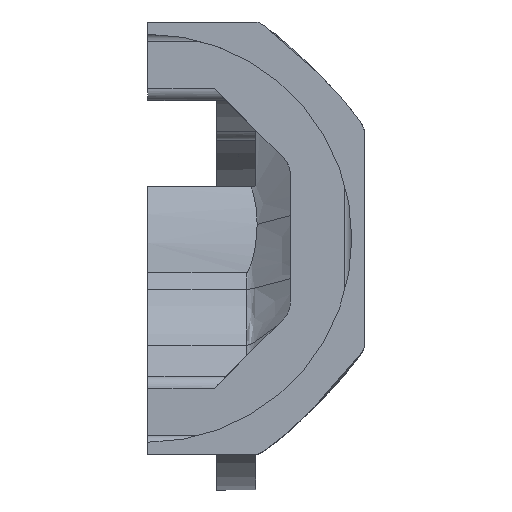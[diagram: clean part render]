
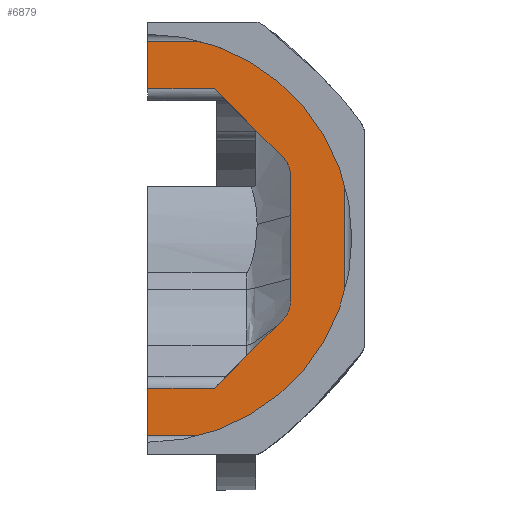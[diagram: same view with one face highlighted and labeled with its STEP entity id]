
A CAD part, top view. The second image highlights one B-rep face of the part: STEP entity #6879.
In plain terms, the highlighted planar face has unit normal (0, 0, 1).
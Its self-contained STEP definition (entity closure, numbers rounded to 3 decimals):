
#362=DIRECTION('',(0.,-1.,0.));
#363=VECTOR('',#362,9.5);
#364=CARTESIAN_POINT('',(213.,45.,182.25));
#365=LINE('',#364,#363);
#1089=CARTESIAN_POINT('',(232.787,45.,182.25));
#1090=CARTESIAN_POINT('',(232.819,44.986,182.25));
#1091=CARTESIAN_POINT('',(232.885,44.953,182.25));
#1092=CARTESIAN_POINT('',(233.017,44.884,182.25));
#1093=CARTESIAN_POINT('',(233.183,44.789,182.25));
#1094=CARTESIAN_POINT('',(233.443,44.631,182.25));
#1095=CARTESIAN_POINT('',(233.762,44.422,182.25));
#1096=CARTESIAN_POINT('',(234.263,44.074,182.25));
#1097=CARTESIAN_POINT('',(234.875,43.621,182.25));
#1098=CARTESIAN_POINT('',(235.595,43.059,182.25));
#1099=CARTESIAN_POINT('',(236.305,42.483,182.25));
#1100=CARTESIAN_POINT('',(237.24,41.701,182.25));
#1101=CARTESIAN_POINT('',(238.388,40.702,182.25));
#1102=CARTESIAN_POINT('',(239.742,39.478,182.25));
#1103=CARTESIAN_POINT('',(241.52,37.819,182.25));
#1104=CARTESIAN_POINT('',(243.697,35.697,182.25));
#1105=CARTESIAN_POINT('',(245.819,33.52,182.25));
#1106=CARTESIAN_POINT('',(247.48,31.74,182.25));
#1107=CARTESIAN_POINT('',(248.705,30.384,182.25));
#1108=CARTESIAN_POINT('',(249.704,29.236,182.25));
#1109=CARTESIAN_POINT('',(250.484,28.304,182.25));
#1110=CARTESIAN_POINT('',(251.059,27.596,182.25));
#1111=CARTESIAN_POINT('',(251.62,26.877,182.25));
#1112=CARTESIAN_POINT('',(252.072,26.266,182.25));
#1113=CARTESIAN_POINT('',(252.419,25.766,182.25));
#1114=CARTESIAN_POINT('',(252.628,25.446,182.25));
#1115=CARTESIAN_POINT('',(252.788,25.185,182.25));
#1116=CARTESIAN_POINT('',(252.883,25.018,182.25));
#1117=CARTESIAN_POINT('',(252.953,24.885,182.25));
#1118=CARTESIAN_POINT('',(252.985,24.819,182.25));
#1119=CARTESIAN_POINT('',(253.,24.787,182.25));
#1121=CARTESIAN_POINT('',(253.,-14.787,182.25));
#1122=CARTESIAN_POINT('',(252.985,-14.819,182.25));
#1123=CARTESIAN_POINT('',(252.953,-14.885,182.25));
#1124=CARTESIAN_POINT('',(252.884,-15.017,182.25));
#1125=CARTESIAN_POINT('',(252.789,-15.182,182.25));
#1126=CARTESIAN_POINT('',(252.631,-15.443,182.25));
#1127=CARTESIAN_POINT('',(252.422,-15.762,182.25));
#1128=CARTESIAN_POINT('',(252.074,-16.263,182.25));
#1129=CARTESIAN_POINT('',(251.621,-16.875,182.25));
#1130=CARTESIAN_POINT('',(251.059,-17.595,182.25));
#1131=CARTESIAN_POINT('',(250.483,-18.305,182.25));
#1132=CARTESIAN_POINT('',(249.701,-19.239,182.25));
#1133=CARTESIAN_POINT('',(248.702,-20.388,182.25));
#1134=CARTESIAN_POINT('',(247.478,-21.742,182.25));
#1135=CARTESIAN_POINT('',(245.818,-23.52,182.25));
#1136=CARTESIAN_POINT('',(243.697,-25.697,182.25));
#1137=CARTESIAN_POINT('',(241.519,-27.819,182.25));
#1138=CARTESIAN_POINT('',(239.74,-29.48,182.25));
#1139=CARTESIAN_POINT('',(238.384,-30.705,182.25));
#1140=CARTESIAN_POINT('',(237.236,-31.703,182.25));
#1141=CARTESIAN_POINT('',(236.304,-32.484,182.25));
#1142=CARTESIAN_POINT('',(235.596,-33.059,182.25));
#1143=CARTESIAN_POINT('',(234.877,-33.62,182.25));
#1144=CARTESIAN_POINT('',(234.266,-34.072,182.25));
#1145=CARTESIAN_POINT('',(233.765,-34.419,182.25));
#1146=CARTESIAN_POINT('',(233.446,-34.628,182.25));
#1147=CARTESIAN_POINT('',(233.185,-34.788,182.25));
#1148=CARTESIAN_POINT('',(233.017,-34.883,182.25));
#1149=CARTESIAN_POINT('',(232.884,-34.953,182.25));
#1150=CARTESIAN_POINT('',(232.819,-34.985,182.25));
#1151=CARTESIAN_POINT('',(232.787,-35.,182.25));
#1153=DIRECTION('',(0.,1.,0.));
#1154=VECTOR('',#1153,9.5);
#1155=CARTESIAN_POINT('',(213.,-35.,182.25));
#1156=LINE('',#1155,#1154);
#1157=DIRECTION('',(0.707,0.707,0.));
#1158=VECTOR('',#1157,19.849);
#1159=CARTESIAN_POINT('',(226.5,-25.5,182.25));
#1160=LINE('',#1159,#1158);
#1161=CARTESIAN_POINT('',(237.,-7.929,182.25));
#1162=DIRECTION('',(0.,0.,1.));
#1163=DIRECTION('',(0.707,-0.707,0.));
#1164=AXIS2_PLACEMENT_3D('',#1161,#1162,#1163);
#1166=DIRECTION('',(0.,1.,0.));
#1167=VECTOR('',#1166,25.858);
#1168=CARTESIAN_POINT('',(242.,-7.929,182.25));
#1169=LINE('',#1168,#1167);
#1170=CARTESIAN_POINT('',(237.,17.929,182.25));
#1171=DIRECTION('',(0.,0.,1.));
#1172=DIRECTION('',(1.,0.,0.));
#1173=AXIS2_PLACEMENT_3D('',#1170,#1171,#1172);
#1175=DIRECTION('',(-0.707,0.707,0.));
#1176=VECTOR('',#1175,19.849);
#1177=CARTESIAN_POINT('',(240.536,21.465,182.25));
#1178=LINE('',#1177,#1176);
#1220=CARTESIAN_POINT('',(253.,24.787,182.25));
#2708=DIRECTION('',(-1.,0.,0.));
#2709=VECTOR('',#2708,13.5);
#2710=CARTESIAN_POINT('',(226.5,-25.5,182.25));
#2711=LINE('',#2710,#2709);
#3074=DIRECTION('',(1.,0.,0.));
#3075=VECTOR('',#3074,19.787);
#3076=CARTESIAN_POINT('',(213.,-35.,182.25));
#3077=LINE('',#3076,#3075);
#3091=CARTESIAN_POINT('',(232.787,-35.,182.25));
#3154=CARTESIAN_POINT('',(253.,-14.787,182.25));
#3174=DIRECTION('',(0.,1.,0.));
#3175=VECTOR('',#3174,39.574);
#3176=CARTESIAN_POINT('',(253.,-14.787,182.25));
#3177=LINE('',#3176,#3175);
#3233=CARTESIAN_POINT('',(232.787,45.,182.25));
#3235=DIRECTION('',(-1.,0.,0.));
#3236=VECTOR('',#3235,19.787);
#3237=CARTESIAN_POINT('',(232.787,45.,182.25));
#3238=LINE('',#3237,#3236);
#3251=DIRECTION('',(1.,0.,0.));
#3252=VECTOR('',#3251,13.5);
#3253=CARTESIAN_POINT('',(213.,35.5,182.25));
#3254=LINE('',#3253,#3252);
#3655=CARTESIAN_POINT('',(213.,45.,182.25));
#3656=VERTEX_POINT('',#3655);
#3657=CARTESIAN_POINT('',(213.,35.5,182.25));
#3658=VERTEX_POINT('',#3657);
#3736=CARTESIAN_POINT('',(213.,-25.5,182.25));
#3737=VERTEX_POINT('',#3736);
#3738=CARTESIAN_POINT('',(213.,-35.,182.25));
#3739=VERTEX_POINT('',#3738);
#3798=VERTEX_POINT('',#3233);
#3799=VERTEX_POINT('',#1220);
#3800=VERTEX_POINT('',#3154);
#3801=VERTEX_POINT('',#3091);
#3802=CARTESIAN_POINT('',(226.5,-25.5,182.25));
#3803=VERTEX_POINT('',#3802);
#3804=CARTESIAN_POINT('',(240.536,-11.464,182.25));
#3805=VERTEX_POINT('',#3804);
#3806=CARTESIAN_POINT('',(242.,-7.929,182.25));
#3807=VERTEX_POINT('',#3806);
#3808=CARTESIAN_POINT('',(242.,17.929,182.25));
#3809=VERTEX_POINT('',#3808);
#3810=CARTESIAN_POINT('',(240.536,21.465,182.25));
#3811=VERTEX_POINT('',#3810);
#3812=CARTESIAN_POINT('',(226.5,35.5,182.25));
#3813=VERTEX_POINT('',#3812);
#6846=CARTESIAN_POINT('',(257.002,5.238,182.25));
#6847=DIRECTION('',(0.,0.,1.));
#6848=DIRECTION('',(0.,-1.,0.));
#6849=AXIS2_PLACEMENT_3D('',#6846,#6847,#6848);
#6850=PLANE('',#6849);
#6852=ORIENTED_EDGE('',*,*,#6851,.T.);
#6854=ORIENTED_EDGE('',*,*,#6853,.F.);
#6856=ORIENTED_EDGE('',*,*,#6855,.T.);
#6858=ORIENTED_EDGE('',*,*,#6857,.F.);
#6860=ORIENTED_EDGE('',*,*,#6859,.T.);
#6862=ORIENTED_EDGE('',*,*,#6861,.F.);
#6864=ORIENTED_EDGE('',*,*,#6863,.T.);
#6866=ORIENTED_EDGE('',*,*,#6865,.T.);
#6868=ORIENTED_EDGE('',*,*,#6867,.T.);
#6870=ORIENTED_EDGE('',*,*,#6869,.T.);
#6871=ORIENTED_EDGE('',*,*,#6833,.T.);
#6873=ORIENTED_EDGE('',*,*,#6872,.F.);
#6874=ORIENTED_EDGE('',*,*,#4505,.F.);
#6876=ORIENTED_EDGE('',*,*,#6875,.F.);
#6877=EDGE_LOOP('',(#6852,#6854,#6856,#6858,#6860,#6862,#6864,#6866,#6868,#6870,
#6871,#6873,#6874,#6876));
#6878=FACE_OUTER_BOUND('',#6877,.F.);
#6879=ADVANCED_FACE('',(#6878),#6850,.T.);
#1120=B_SPLINE_CURVE_WITH_KNOTS('',3,(#1089,#1090,#1091,#1092,#1093,#1094,#1095,
#1096,#1097,#1098,#1099,#1100,#1101,#1102,#1103,#1104,#1105,#1106,#1107,#1108,
#1109,#1110,#1111,#1112,#1113,#1114,#1115,#1116,#1117,#1118,#1119),
.UNSPECIFIED.,.F.,.F.,(4,1,1,1,1,1,1,1,1,1,1,1,1,1,1,1,1,1,1,1,1,1,1,1,1,1,1,1,
4),(0.,0.004,0.008,0.016,
0.024,0.039,0.055,0.087,
0.119,0.151,0.182,0.246,
0.309,0.373,0.5,0.627,
0.691,0.754,0.818,0.849,
0.881,0.913,0.945,0.961,
0.977,0.984,0.992,0.996,1.),
.UNSPECIFIED.);
#1152=B_SPLINE_CURVE_WITH_KNOTS('',3,(#1121,#1122,#1123,#1124,#1125,#1126,#1127,
#1128,#1129,#1130,#1131,#1132,#1133,#1134,#1135,#1136,#1137,#1138,#1139,#1140,
#1141,#1142,#1143,#1144,#1145,#1146,#1147,#1148,#1149,#1150,#1151),
.UNSPECIFIED.,.F.,.F.,(4,1,1,1,1,1,1,1,1,1,1,1,1,1,1,1,1,1,1,1,1,1,1,1,1,1,1,1,
4),(0.,0.004,0.008,0.016,
0.024,0.039,0.055,0.087,
0.119,0.151,0.182,0.246,
0.309,0.373,0.5,0.627,
0.691,0.754,0.818,0.849,
0.881,0.913,0.945,0.961,
0.977,0.984,0.992,0.996,1.),
.UNSPECIFIED.);
#1165=CIRCLE('',#1164,5.);
#1174=CIRCLE('',#1173,5.);
#4505=EDGE_CURVE('',#3656,#3658,#365,.T.);
#6833=EDGE_CURVE('',#3811,#3813,#1178,.T.);
#6851=EDGE_CURVE('',#3798,#3799,#1120,.T.);
#6853=EDGE_CURVE('',#3800,#3799,#3177,.T.);
#6855=EDGE_CURVE('',#3800,#3801,#1152,.T.);
#6857=EDGE_CURVE('',#3739,#3801,#3077,.T.);
#6859=EDGE_CURVE('',#3739,#3737,#1156,.T.);
#6861=EDGE_CURVE('',#3803,#3737,#2711,.T.);
#6863=EDGE_CURVE('',#3803,#3805,#1160,.T.);
#6865=EDGE_CURVE('',#3805,#3807,#1165,.T.);
#6867=EDGE_CURVE('',#3807,#3809,#1169,.T.);
#6869=EDGE_CURVE('',#3809,#3811,#1174,.T.);
#6872=EDGE_CURVE('',#3658,#3813,#3254,.T.);
#6875=EDGE_CURVE('',#3798,#3656,#3238,.T.);
